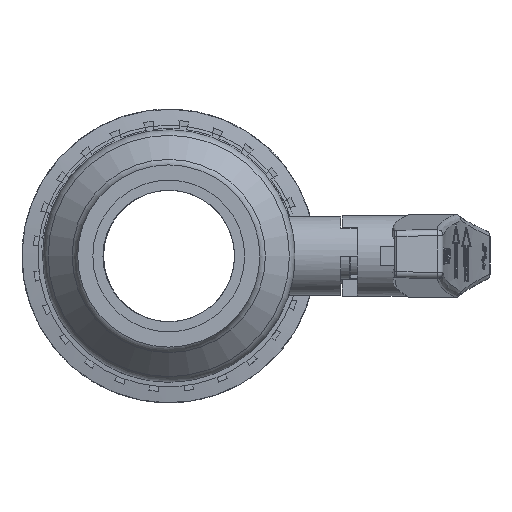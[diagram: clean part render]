
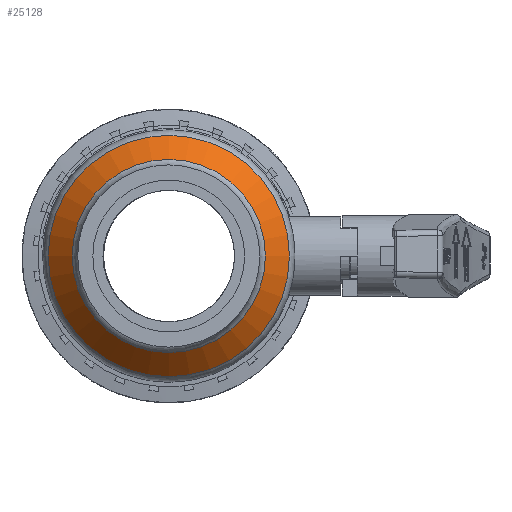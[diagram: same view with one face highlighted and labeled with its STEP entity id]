
A CAD part, left-side view. The second image highlights one B-rep face of the part: STEP entity #25128.
In plain terms, the highlighted conical face has half-angle 43.261 degrees and reference radius 53.65 mm.
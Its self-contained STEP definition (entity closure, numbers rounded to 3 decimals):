
#444=CONICAL_SURFACE('',#26863,53.65,0.755);
#611=FACE_BOUND('',#4565,.T.);
#775=CIRCLE('',#26862,47.718);
#776=CIRCLE('',#26864,59.582);
#2973=FACE_OUTER_BOUND('',#4564,.T.);
#4564=EDGE_LOOP('',(#17033));
#4565=EDGE_LOOP('',(#17034));
#10598=VERTEX_POINT('',#38034);
#10599=VERTEX_POINT('',#38037);
#13090=EDGE_CURVE('',#10598,#10598,#775,.T.);
#13091=EDGE_CURVE('',#10599,#10599,#776,.T.);
#17033=ORIENTED_EDGE('',*,*,#13091,.F.);
#17034=ORIENTED_EDGE('',*,*,#13090,.F.);
#25128=ADVANCED_FACE('',(#2973,#611),#444,.T.);
#26862=AXIS2_PLACEMENT_3D('',#38035,#29573,#29574);
#26863=AXIS2_PLACEMENT_3D('',#38036,#29575,#29576);
#26864=AXIS2_PLACEMENT_3D('',#38038,#29577,#29578);
#29573=DIRECTION('center_axis',(-1.,0.,0.));
#29574=DIRECTION('ref_axis',(0.,-1.,0.));
#29575=DIRECTION('center_axis',(1.,0.,0.));
#29576=DIRECTION('ref_axis',(0.,1.,0.));
#29577=DIRECTION('center_axis',(1.,0.,0.));
#29578=DIRECTION('ref_axis',(0.,-1.,0.));
#38034=CARTESIAN_POINT('',(-61.475,47.718,0.));
#38035=CARTESIAN_POINT('Origin',(-61.475,0.,0.));
#38036=CARTESIAN_POINT('Origin',(-55.171,0.,0.));
#38037=CARTESIAN_POINT('',(-48.867,59.582,0.));
#38038=CARTESIAN_POINT('Origin',(-48.867,0.,0.));
